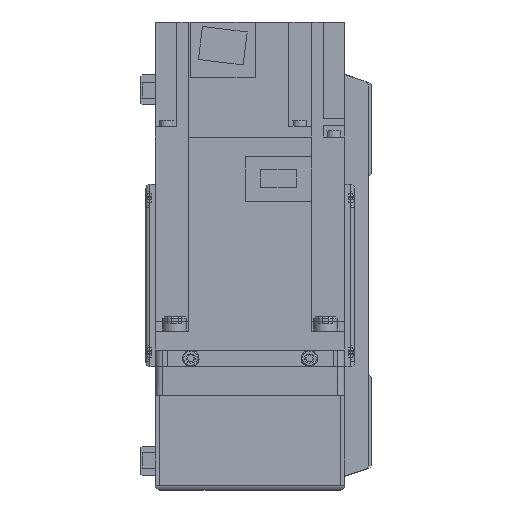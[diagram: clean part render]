
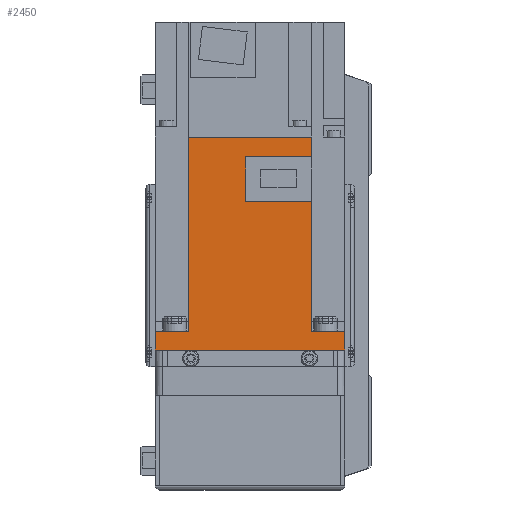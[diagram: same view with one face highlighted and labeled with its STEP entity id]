
A CAD part, left-side view. The second image highlights one B-rep face of the part: STEP entity #2450.
In plain terms, the highlighted planar face has unit normal (-1, 0, 0) as drawn and (1, 0, 0) by its records, which use the part's own axes.
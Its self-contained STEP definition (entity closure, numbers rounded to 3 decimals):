
#2450 = ADVANCED_FACE( '', ( #5594 ), #5595, .F. );
#5594 = FACE_OUTER_BOUND( '', #9522, .T. );
#5595 = PLANE( '', #9523 );
#9522 = EDGE_LOOP( '', ( #16590, #16591, #16592, #16593, #16594, #16595, #16596, #16597, #16598, #16599, #16600, #16601 ) );
#9523 = AXIS2_PLACEMENT_3D( '', #16602, #16603, #16604 );
#16590 = ORIENTED_EDGE( '', *, *, #24463, .F. );
#16591 = ORIENTED_EDGE( '', *, *, #24372, .F. );
#16592 = ORIENTED_EDGE( '', *, *, #23447, .F. );
#16593 = ORIENTED_EDGE( '', *, *, #24464, .T. );
#16594 = ORIENTED_EDGE( '', *, *, #24465, .F. );
#16595 = ORIENTED_EDGE( '', *, *, #23313, .T. );
#16596 = ORIENTED_EDGE( '', *, *, #23190, .T. );
#16597 = ORIENTED_EDGE( '', *, *, #22286, .F. );
#16598 = ORIENTED_EDGE( '', *, *, #23092, .F. );
#16599 = ORIENTED_EDGE( '', *, *, #24373, .F. );
#16600 = ORIENTED_EDGE( '', *, *, #24466, .F. );
#16601 = ORIENTED_EDGE( '', *, *, #24467, .F. );
#16602 = CARTESIAN_POINT( '', ( 40., 89.8, 40. ) );
#16603 = DIRECTION( '', ( -1., 0., 0. ) );
#16604 = DIRECTION( '', ( 0., 0., 1. ) );
#22286 = EDGE_CURVE( '', #26620, #26622, #26623, .T. );
#23092 = EDGE_CURVE( '', #27993, #26620, #27994, .T. );
#23190 = EDGE_CURVE( '', #28150, #26622, #28151, .T. );
#23313 = EDGE_CURVE( '', #28353, #28150, #28354, .T. );
#23447 = EDGE_CURVE( '', #28567, #28565, #28569, .T. );
#24372 = EDGE_CURVE( '', #28565, #29798, #29951, .T. );
#24373 = EDGE_CURVE( '', #29799, #27993, #29952, .T. );
#24463 = EDGE_CURVE( '', #29798, #30077, #30078, .T. );
#24464 = EDGE_CURVE( '', #28567, #30079, #30080, .T. );
#24465 = EDGE_CURVE( '', #28353, #30079, #30081, .T. );
#24466 = EDGE_CURVE( '', #30082, #29799, #30083, .T. );
#24467 = EDGE_CURVE( '', #30077, #30082, #30084, .T. );
#26620 = VERTEX_POINT( '', #33018 );
#26622 = VERTEX_POINT( '', #33021 );
#26623 = LINE( '', #33022, #33023 );
#27993 = VERTEX_POINT( '', #34972 );
#27994 = LINE( '', #34973, #34974 );
#28150 = VERTEX_POINT( '', #35233 );
#28151 = LINE( '', #35234, #35235 );
#28353 = VERTEX_POINT( '', #35531 );
#28354 = LINE( '', #35532, #35533 );
#28565 = VERTEX_POINT( '', #35874 );
#28567 = VERTEX_POINT( '', #35877 );
#28569 = LINE( '', #35880, #35881 );
#29798 = VERTEX_POINT( '', #38182 );
#29799 = VERTEX_POINT( '', #38183 );
#29951 = LINE( '', #38403, #38404 );
#29952 = LINE( '', #38405, #38406 );
#30077 = VERTEX_POINT( '', #38620 );
#30078 = LINE( '', #38621, #38622 );
#30079 = VERTEX_POINT( '', #38623 );
#30080 = LINE( '', #38624, #38625 );
#30081 = LINE( '', #38626, #38627 );
#30082 = VERTEX_POINT( '', #38628 );
#30083 = LINE( '', #38629, #38630 );
#30084 = LINE( '', #38631, #38632 );
#33018 = CARTESIAN_POINT( '', ( 40., 8., -40. ) );
#33021 = CARTESIAN_POINT( '', ( 40., 0., -40. ) );
#33022 = CARTESIAN_POINT( '', ( 40., 89.8, -40. ) );
#33023 = VECTOR( '', #41702, 1000. );
#34972 = CARTESIAN_POINT( '', ( 40., 8., -25.95 ) );
#34973 = CARTESIAN_POINT( '', ( 40., 8., 40. ) );
#34974 = VECTOR( '', #42754, 1000. );
#35233 = CARTESIAN_POINT( '', ( 40., 0., 40. ) );
#35234 = CARTESIAN_POINT( '', ( 40., 0., 40. ) );
#35235 = VECTOR( '', #42867, 1000. );
#35531 = CARTESIAN_POINT( '', ( 40., 8., 40. ) );
#35532 = CARTESIAN_POINT( '', ( 40., 89.8, 40. ) );
#35533 = VECTOR( '', #43029, 1000. );
#35874 = CARTESIAN_POINT( '', ( 40., 89.8, -25.95 ) );
#35877 = CARTESIAN_POINT( '', ( 40., 89.8, 25.95 ) );
#35880 = CARTESIAN_POINT( '', ( 40., 89.8, 40. ) );
#35881 = VECTOR( '', #43208, 1000. );
#38182 = CARTESIAN_POINT( '', ( 40., 81.4, -25.95 ) );
#38183 = CARTESIAN_POINT( '', ( 40., 62.8, -25.95 ) );
#38403 = CARTESIAN_POINT( '', ( 40., 158., -25.95 ) );
#38404 = VECTOR( '', #44381, 1000. );
#38405 = CARTESIAN_POINT( '', ( 40., 158., -25.95 ) );
#38406 = VECTOR( '', #44382, 1000. );
#38620 = CARTESIAN_POINT( '', ( 40., 81.4, 1.8 ) );
#38621 = CARTESIAN_POINT( '', ( 40., 81.4, -26. ) );
#38622 = VECTOR( '', #44472, 1000. );
#38623 = CARTESIAN_POINT( '', ( 40., 8., 25.95 ) );
#38624 = CARTESIAN_POINT( '', ( 40., 158., 25.95 ) );
#38625 = VECTOR( '', #44473, 1000. );
#38626 = CARTESIAN_POINT( '', ( 40., 8., 40. ) );
#38627 = VECTOR( '', #44474, 1000. );
#38628 = CARTESIAN_POINT( '', ( 40., 62.8, 1.8 ) );
#38629 = CARTESIAN_POINT( '', ( 40., 62.8, 1.8 ) );
#38630 = VECTOR( '', #44475, 1000. );
#38631 = CARTESIAN_POINT( '', ( 40., 81.4, 1.8 ) );
#38632 = VECTOR( '', #44476, 1000. );
#41702 = DIRECTION( '', ( 0., -1., 0. ) );
#42754 = DIRECTION( '', ( 0., 0., -1. ) );
#42867 = DIRECTION( '', ( 0., 0., -1. ) );
#43029 = DIRECTION( '', ( 0., -1., 0. ) );
#43208 = DIRECTION( '', ( 0., 0., -1. ) );
#44381 = DIRECTION( '', ( 0., -1., 0. ) );
#44382 = DIRECTION( '', ( 0., -1., 0. ) );
#44472 = DIRECTION( '', ( 0., 0., 1. ) );
#44473 = DIRECTION( '', ( 0., -1., 0. ) );
#44474 = DIRECTION( '', ( 0., 0., -1. ) );
#44475 = DIRECTION( '', ( 0., 0., -1. ) );
#44476 = DIRECTION( '', ( 0., -1., 0. ) );
